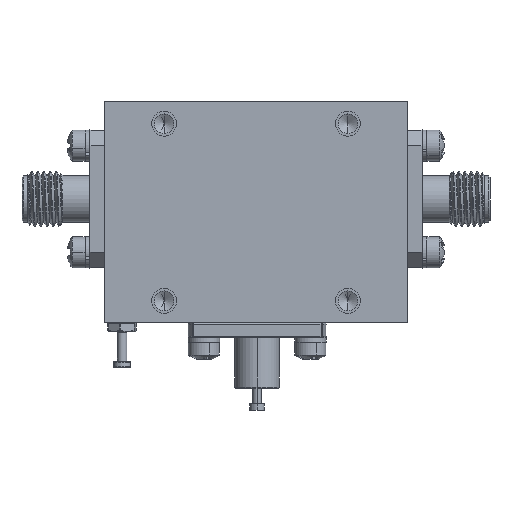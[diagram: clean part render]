
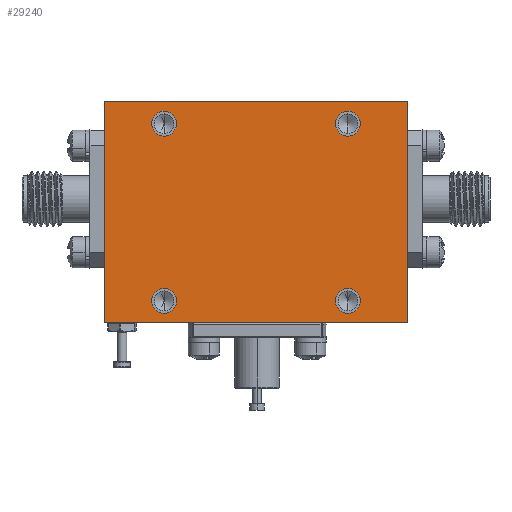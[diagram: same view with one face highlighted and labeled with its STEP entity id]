
A CAD part, front view. The second image highlights one B-rep face of the part: STEP entity #29240.
In plain terms, the highlighted planar face has unit normal (0, -1, 0).
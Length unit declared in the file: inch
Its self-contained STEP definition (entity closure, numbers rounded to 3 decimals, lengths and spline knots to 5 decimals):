
#315 = VERTEX_POINT ( 'NONE', #1795 ) ;
#1487 = ORIENTED_EDGE ( 'NONE', *, *, #9237, .F. ) ;
#1667 = LINE ( 'NONE', #14581, #15531 ) ;
#1738 = AXIS2_PLACEMENT_3D ( 'NONE', #16333, #42027, #35185 ) ;
#1795 = CARTESIAN_POINT ( 'NONE',  ( -1.19837, -0.18221, 0.01527 ) ) ;
#3023 = CARTESIAN_POINT ( 'NONE',  ( -0.92837, -0.18221, -0.88473 ) ) ;
#3146 = LINE ( 'NONE', #32804, #33584 ) ;
#3155 = CARTESIAN_POINT ( 'NONE',  ( -0.09837, -0.18221, -0.88473 ) ) ;
#3239 = DIRECTION ( 'NONE',  ( 0., 0., -1. ) ) ;
#3318 = EDGE_CURVE ( 'NONE', #30636, #4328, #4703, .T. ) ;
#3659 = DIRECTION ( 'NONE',  ( 0., 0., -1. ) ) ;
#4328 = VERTEX_POINT ( 'NONE', #25481 ) ;
#4447 = DIRECTION ( 'NONE',  ( 0., 0., -1. ) ) ;
#4703 = CIRCLE ( 'NONE', #33492, 0.056 ) ;
#4727 = CIRCLE ( 'NONE', #16410, 0.056 ) ;
#4800 = EDGE_LOOP ( 'NONE', ( #24730, #27675 ) ) ;
#5391 = EDGE_CURVE ( 'NONE', #12895, #29775, #5467, .T. ) ;
#5467 = CIRCLE ( 'NONE', #29465, 0.056 ) ;
#6004 = VECTOR ( 'NONE', #4447, 39.37008 ) ;
#6766 = EDGE_CURVE ( 'NONE', #27897, #7788, #3146, .T. ) ;
#7788 = VERTEX_POINT ( 'NONE', #20137 ) ;
#7878 = CIRCLE ( 'NONE', #31884, 0.056 ) ;
#8628 = CARTESIAN_POINT ( 'NONE',  ( -0.09837, -0.18221, -0.08473 ) ) ;
#8779 = CARTESIAN_POINT ( 'NONE',  ( -1.19837, -0.18221, 0.01527 ) ) ;
#9004 = CARTESIAN_POINT ( 'NONE',  ( -0.92837, -0.18221, -0.88473 ) ) ;
#9095 = CIRCLE ( 'NONE', #13202, 0.056 ) ;
#9237 = EDGE_CURVE ( 'NONE', #20659, #27773, #7878, .T. ) ;
#9603 = DIRECTION ( 'NONE',  ( -1., 0., 0. ) ) ;
#10206 = VERTEX_POINT ( 'NONE', #16126 ) ;
#10808 = CARTESIAN_POINT ( 'NONE',  ( 0.17163, -0.18221, -0.98473 ) ) ;
#10853 = LINE ( 'NONE', #14070, #14918 ) ;
#11033 = ORIENTED_EDGE ( 'NONE', *, *, #11229, .F. ) ;
#11056 = CARTESIAN_POINT ( 'NONE',  ( -0.09837, -0.18221, -0.02873 ) ) ;
#11229 = EDGE_CURVE ( 'NONE', #315, #42196, #1667, .T. ) ;
#11439 = ORIENTED_EDGE ( 'NONE', *, *, #40865, .F. ) ;
#11618 = AXIS2_PLACEMENT_3D ( 'NONE', #8779, #15876, #21904 ) ;
#11762 = CARTESIAN_POINT ( 'NONE',  ( -0.09837, -0.18221, -0.82873 ) ) ;
#11789 = PLANE ( 'NONE',  #11618 ) ;
#11996 = FACE_OUTER_BOUND ( 'NONE', #13273, .T. ) ;
#12895 = VERTEX_POINT ( 'NONE', #11056 ) ;
#13193 = DIRECTION ( 'NONE',  ( 0., 0., -1. ) ) ;
#13202 = AXIS2_PLACEMENT_3D ( 'NONE', #3155, #22534, #32374 ) ;
#13273 = EDGE_LOOP ( 'NONE', ( #13464, #21219, #30835, #11033 ) ) ;
#13401 = DIRECTION ( 'NONE',  ( 0., -1., 0. ) ) ;
#13464 = ORIENTED_EDGE ( 'NONE', *, *, #26946, .F. ) ;
#14070 = CARTESIAN_POINT ( 'NONE',  ( -1.19837, -0.18221, 0.01527 ) ) ;
#14080 = EDGE_LOOP ( 'NONE', ( #25159, #1487 ) ) ;
#14121 = LINE ( 'NONE', #23399, #6004 ) ;
#14299 = CARTESIAN_POINT ( 'NONE',  ( -0.92837, -0.18221, -0.14073 ) ) ;
#14581 = CARTESIAN_POINT ( 'NONE',  ( -1.19837, -0.18221, 0.01527 ) ) ;
#14918 = VECTOR ( 'NONE', #40225, 39.37008 ) ;
#15381 = AXIS2_PLACEMENT_3D ( 'NONE', #3023, #16149, #3239 ) ;
#15531 = VECTOR ( 'NONE', #17390, 39.37008 ) ;
#15876 = DIRECTION ( 'NONE',  ( 0., -1., 0. ) ) ;
#16126 = CARTESIAN_POINT ( 'NONE',  ( -0.92837, -0.18221, -0.82873 ) ) ;
#16149 = DIRECTION ( 'NONE',  ( 0., -1., 0. ) ) ;
#16333 = CARTESIAN_POINT ( 'NONE',  ( -0.92837, -0.18221, -0.08473 ) ) ;
#16410 = AXIS2_PLACEMENT_3D ( 'NONE', #9004, #42018, #22333 ) ;
#16788 = CIRCLE ( 'NONE', #15381, 0.056 ) ;
#16796 = AXIS2_PLACEMENT_3D ( 'NONE', #39478, #17010, #3659 ) ;
#16888 = CIRCLE ( 'NONE', #1738, 0.056 ) ;
#17010 = DIRECTION ( 'NONE',  ( 0., -1., 0. ) ) ;
#17390 = DIRECTION ( 'NONE',  ( 1., 0., 0. ) ) ;
#18531 = CARTESIAN_POINT ( 'NONE',  ( -0.92837, -0.18221, -0.94073 ) ) ;
#19305 = DIRECTION ( 'NONE',  ( 0., 0., -1. ) ) ;
#19313 = EDGE_LOOP ( 'NONE', ( #11439, #22827 ) ) ;
#19448 = EDGE_CURVE ( 'NONE', #27773, #20659, #9095, .T. ) ;
#20137 = CARTESIAN_POINT ( 'NONE',  ( -1.19837, -0.18221, -0.98473 ) ) ;
#20659 = VERTEX_POINT ( 'NONE', #11762 ) ;
#21219 = ORIENTED_EDGE ( 'NONE', *, *, #6766, .F. ) ;
#21228 = CARTESIAN_POINT ( 'NONE',  ( 0.17163, -0.18221, 0.01527 ) ) ;
#21330 = EDGE_CURVE ( 'NONE', #36736, #10206, #16788, .T. ) ;
#21904 = DIRECTION ( 'NONE',  ( 0., 0., -1. ) ) ;
#22333 = DIRECTION ( 'NONE',  ( 0., 0., -1. ) ) ;
#22534 = DIRECTION ( 'NONE',  ( 0., -1., 0. ) ) ;
#22827 = ORIENTED_EDGE ( 'NONE', *, *, #5391, .F. ) ;
#23399 = CARTESIAN_POINT ( 'NONE',  ( 0.17163, -0.18221, 0.01527 ) ) ;
#23574 = EDGE_CURVE ( 'NONE', #4328, #30636, #16888, .T. ) ;
#24730 = ORIENTED_EDGE ( 'NONE', *, *, #21330, .F. ) ;
#25159 = ORIENTED_EDGE ( 'NONE', *, *, #19448, .F. ) ;
#25327 = FACE_BOUND ( 'NONE', #42158, .T. ) ;
#25481 = CARTESIAN_POINT ( 'NONE',  ( -0.92837, -0.18221, -0.02873 ) ) ;
#25728 = ORIENTED_EDGE ( 'NONE', *, *, #3318, .F. ) ;
#26946 = EDGE_CURVE ( 'NONE', #7788, #315, #10853, .T. ) ;
#27675 = ORIENTED_EDGE ( 'NONE', *, *, #30095, .F. ) ;
#27773 = VERTEX_POINT ( 'NONE', #32729 ) ;
#27897 = VERTEX_POINT ( 'NONE', #10808 ) ;
#29240 = ADVANCED_FACE ( 'NONE', ( #38182, #31333, #25327, #41170, #11996 ), #11789, .T. ) ;
#29465 = AXIS2_PLACEMENT_3D ( 'NONE', #8628, #41435, #31813 ) ;
#29775 = VERTEX_POINT ( 'NONE', #32237 ) ;
#30095 = EDGE_CURVE ( 'NONE', #10206, #36736, #4727, .T. ) ;
#30636 = VERTEX_POINT ( 'NONE', #14299 ) ;
#30835 = ORIENTED_EDGE ( 'NONE', *, *, #32462, .F. ) ;
#31333 = FACE_BOUND ( 'NONE', #4800, .T. ) ;
#31813 = DIRECTION ( 'NONE',  ( 0., 0., -1. ) ) ;
#31884 = AXIS2_PLACEMENT_3D ( 'NONE', #39558, #13401, #13193 ) ;
#32237 = CARTESIAN_POINT ( 'NONE',  ( -0.09837, -0.18221, -0.14073 ) ) ;
#32374 = DIRECTION ( 'NONE',  ( 0., 0., -1. ) ) ;
#32462 = EDGE_CURVE ( 'NONE', #42196, #27897, #14121, .T. ) ;
#32729 = CARTESIAN_POINT ( 'NONE',  ( -0.09837, -0.18221, -0.94073 ) ) ;
#32804 = CARTESIAN_POINT ( 'NONE',  ( -1.19837, -0.18221, -0.98473 ) ) ;
#33029 = DIRECTION ( 'NONE',  ( 0., -1., 0. ) ) ;
#33492 = AXIS2_PLACEMENT_3D ( 'NONE', #39626, #33029, #19305 ) ;
#33584 = VECTOR ( 'NONE', #9603, 39.37008 ) ;
#35185 = DIRECTION ( 'NONE',  ( 0., 0., -1. ) ) ;
#35265 = CIRCLE ( 'NONE', #16796, 0.056 ) ;
#36736 = VERTEX_POINT ( 'NONE', #18531 ) ;
#37566 = ORIENTED_EDGE ( 'NONE', *, *, #23574, .F. ) ;
#38182 = FACE_BOUND ( 'NONE', #14080, .T. ) ;
#39478 = CARTESIAN_POINT ( 'NONE',  ( -0.09837, -0.18221, -0.08473 ) ) ;
#39558 = CARTESIAN_POINT ( 'NONE',  ( -0.09837, -0.18221, -0.88473 ) ) ;
#39626 = CARTESIAN_POINT ( 'NONE',  ( -0.92837, -0.18221, -0.08473 ) ) ;
#40225 = DIRECTION ( 'NONE',  ( 0., 0., 1. ) ) ;
#40865 = EDGE_CURVE ( 'NONE', #29775, #12895, #35265, .T. ) ;
#41170 = FACE_BOUND ( 'NONE', #19313, .T. ) ;
#41435 = DIRECTION ( 'NONE',  ( 0., -1., 0. ) ) ;
#42018 = DIRECTION ( 'NONE',  ( 0., -1., 0. ) ) ;
#42027 = DIRECTION ( 'NONE',  ( 0., -1., 0. ) ) ;
#42158 = EDGE_LOOP ( 'NONE', ( #25728, #37566 ) ) ;
#42196 = VERTEX_POINT ( 'NONE', #21228 ) ;
